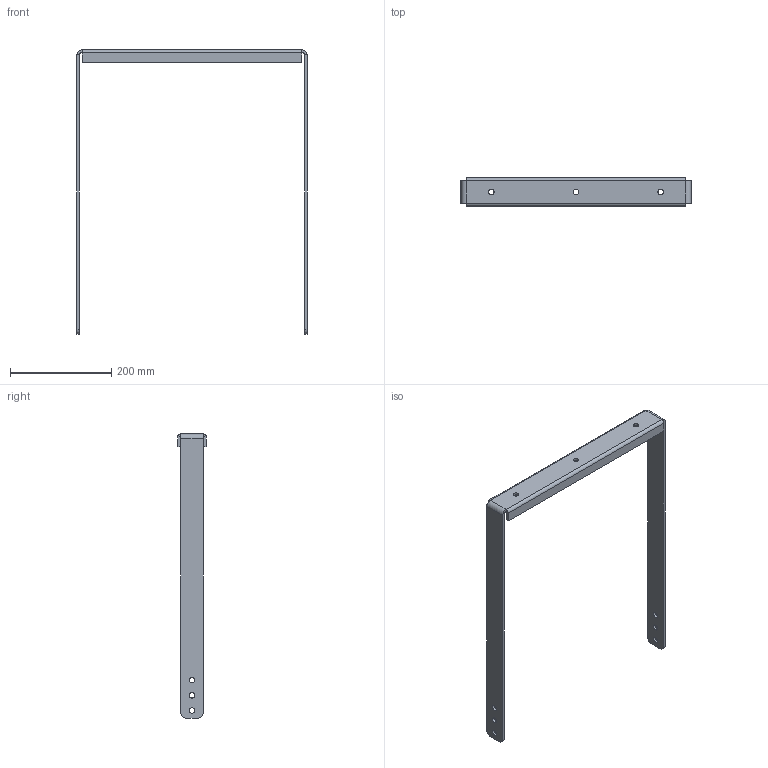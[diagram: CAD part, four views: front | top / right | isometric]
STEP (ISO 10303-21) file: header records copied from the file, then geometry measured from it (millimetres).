
FILE_DESCRIPTION(/* description */ (''),/* implementation_level */ '2;1');
FILE_NAME(/* name */ 'UB 15.stp',/* time_stamp */ '2024-09-25T12:56:26+02:00',/* author */ ('d.streicher'),/* organization */ (''),/* preprocessor_version */ 'ST-DEVELOPER v20',/* originating_system */ 'Autodesk Inventor 2025',/* authorisation */ '');
FILE_SCHEMA (('AUTOMOTIVE_DESIGN { 1 0 10303 214 3 1 1 }'));
Length unit declared in the file: millimetre
Products named in the file (1): UB 15
Bounding box: 454 x 56 x 561 mm (x, y, z)
Volume: 444718.3 mm3; surface area: 195882.2 mm2
Topology: 1 solids, 1 shells, 51 faces, 115 edges, 66 vertices
Faces by surface type: plane 30, cylinder 21
Full cylindrical faces by diameter (mm): 11 x9
Entity records: 1534 total; most frequent: DIRECTION 261, CARTESIAN_POINT 233, ORIENTED_EDGE 230, EDGE_CURVE 115, AXIS2_PLACEMENT_3D 94, LINE 73, VECTOR 73, EDGE_LOOP 69
